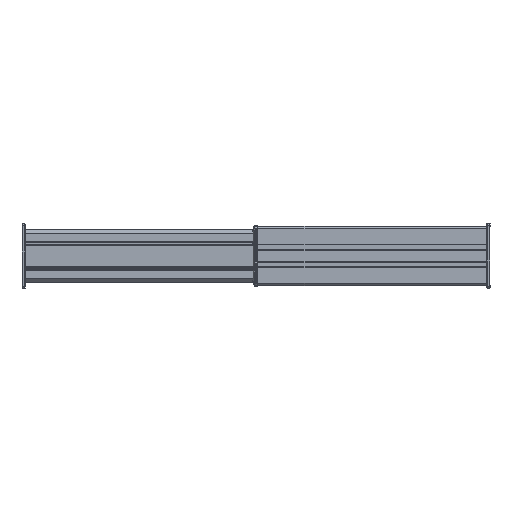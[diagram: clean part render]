
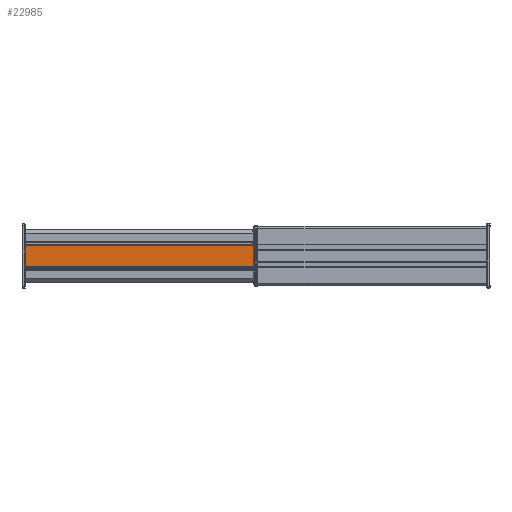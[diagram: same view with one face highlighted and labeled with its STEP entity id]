
A CAD part, left-side view. The second image highlights one B-rep face of the part: STEP entity #22985.
In plain terms, the highlighted planar face has unit normal (-1, 0, 0).
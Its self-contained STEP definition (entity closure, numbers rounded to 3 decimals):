
#15188=DIRECTION('',(0.,0.,-1.));
#15189=VECTOR('',#15188,50.286);
#15190=CARTESIAN_POINT('',(-88.15,630.,25.143));
#15191=LINE('',#15190,#15189);
#15566=DIRECTION('',(0.,0.,1.));
#15567=VECTOR('',#15566,50.286);
#15568=CARTESIAN_POINT('',(-88.15,50.,-25.143));
#15569=LINE('',#15568,#15567);
#17409=DIRECTION('',(0.,-1.,0.));
#17410=VECTOR('',#17409,580.);
#17411=CARTESIAN_POINT('',(-88.15,630.,-25.143));
#17412=LINE('',#17411,#17410);
#17413=DIRECTION('',(0.,1.,0.));
#17414=VECTOR('',#17413,580.);
#17415=CARTESIAN_POINT('',(-88.15,50.,25.143));
#17416=LINE('',#17415,#17414);
#19693=CARTESIAN_POINT('',(-88.15,630.,25.143));
#19694=VERTEX_POINT('',#19693);
#19695=CARTESIAN_POINT('',(-88.15,630.,-25.143));
#19696=VERTEX_POINT('',#19695);
#19883=CARTESIAN_POINT('',(-88.15,50.,-25.143));
#19884=VERTEX_POINT('',#19883);
#19885=CARTESIAN_POINT('',(-88.15,50.,25.143));
#19886=VERTEX_POINT('',#19885);
#22973=CARTESIAN_POINT('',(-88.15,0.,0.));
#22974=DIRECTION('',(1.,0.,0.));
#22975=DIRECTION('',(0.,0.,-1.));
#22976=AXIS2_PLACEMENT_3D('',#22973,#22974,#22975);
#22977=PLANE('',#22976);
#22978=ORIENTED_EDGE('',*,*,#21606,.F.);
#22979=ORIENTED_EDGE('',*,*,#22968,.F.);
#22980=ORIENTED_EDGE('',*,*,#21382,.F.);
#22982=ORIENTED_EDGE('',*,*,#22981,.F.);
#22983=EDGE_LOOP('',(#22978,#22979,#22980,#22982));
#22984=FACE_OUTER_BOUND('',#22983,.F.);
#21382=EDGE_CURVE('',#19694,#19696,#15191,.T.);
#21606=EDGE_CURVE('',#19884,#19886,#15569,.T.);
#22968=EDGE_CURVE('',#19696,#19884,#17412,.T.);
#22981=EDGE_CURVE('',#19886,#19694,#17416,.T.);
#22985=ADVANCED_FACE('',(#22984),#22977,.F.);
